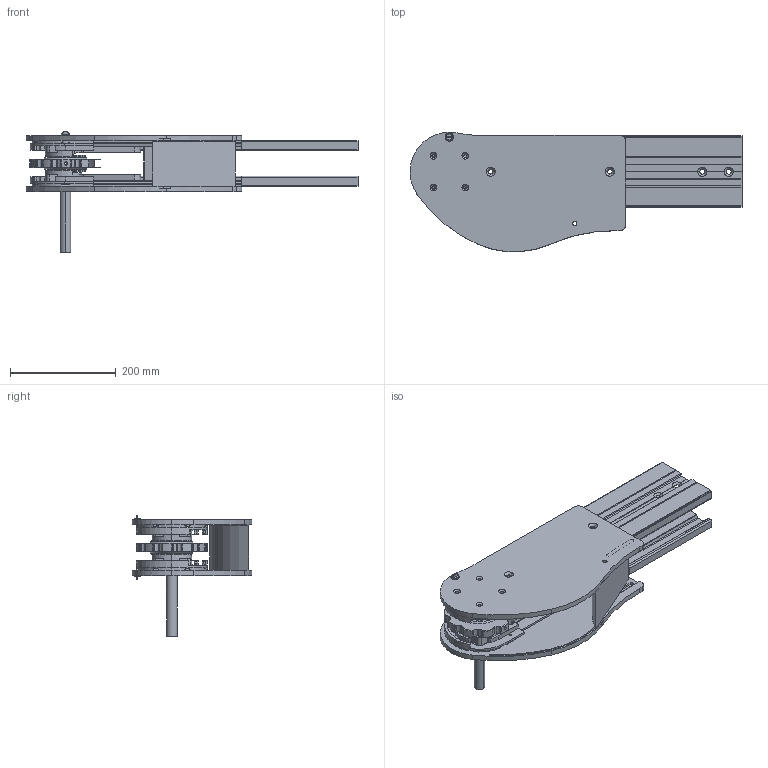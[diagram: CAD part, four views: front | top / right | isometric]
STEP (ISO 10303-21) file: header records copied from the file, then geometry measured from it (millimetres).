
FILE_DESCRIPTION (( 'STEP AP203' ), '1' );
FILE_NAME ('R2M-D20.STEP', '2008-12-02T09:28:03', ( 'faber' ), ( '' ), 'SwSTEP 2.0', 'SolidWorks 2008', '' );
FILE_SCHEMA (( 'CONFIG_CONTROL_DESIGN' ));
Length unit declared in the file: millimetre
Products named in the file (1): R2M-D20
Bounding box: 627.5 x 225.64 x 228.47 mm (x, y, z)
Surface area: 893591.9 mm2 (no closed solid volume)
Topology: 0 solids, 30 shells, 621 faces, 2391 edges, 1711 vertices
Faces by surface type: cylinder 271, plane 247, cone 65, sphere 24, torus 12, bspline 2
Entity records: 26933 total; most frequent: CARTESIAN_POINT 6998, DIRECTION 4270, ORIENTED_EDGE 3843, EDGE_CURVE 2343, VERTEX_POINT 1687, AXIS2_PLACEMENT_3D 1589, LINE 1092, VECTOR 1092
